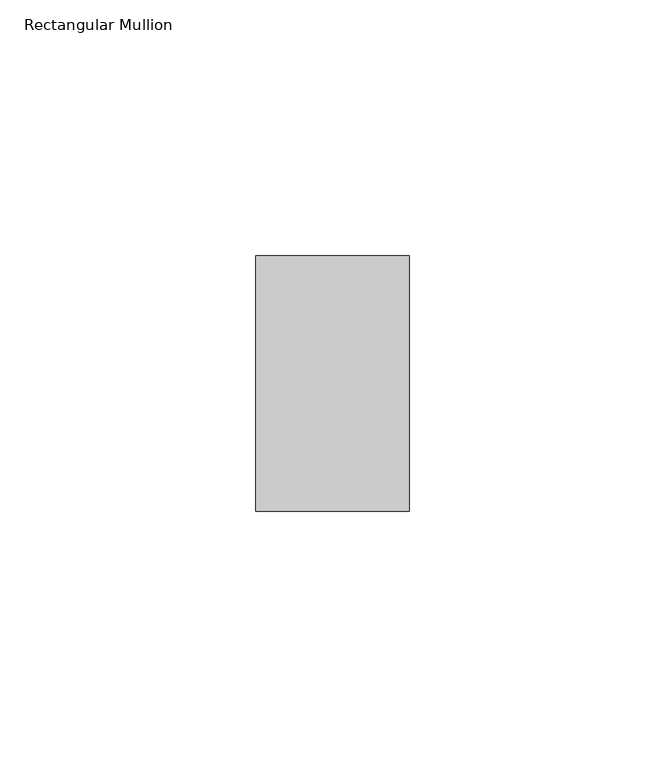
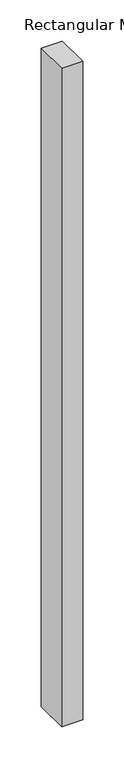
"""IFC4 building model written with IfcOpenShell, lengths in millimetres: member geometry, Rectangular Mullion : ARQ_TV_MULL_50x30mm."""

from ifc_helpers import new_model, si_unit, frame, origin, place, context, project, spatial, polyline, outline, extrude, source, transform, mapped, element, save


def rectangular_mullion_de2a72ae(model_context):
    return source(origin(), model_context, "Body", "SweptSolid", [
        extrude(outline(polyline([(15.0, 25.0), (15.0, -25.0), (-15.0, -25.0), (-15.0, 25.0), (15.0, 25.0)])), frame((0.0, 0.0, -980.1431269), z_axis=(0.0, 0.0, 1.0), x_axis=(1.0, 0.0, 0.0)), (0.0, 0.0, 1.0), 980.1431269),
    ])


if __name__ == "__main__":
    model = new_model("IFC4")
    model_context = context("Model", 3, world=origin())
    ifc_project = project(units=[si_unit("LENGTHUNIT", "METRE", prefix="MILLI")], contexts=[model_context])
    site = spatial("IfcSite", under=ifc_project)
    building = spatial("IfcBuilding", under=site)
    placement = place(None, origin())
    rectangular_mullion_shape = rectangular_mullion_de2a72ae(model_context)
    element("IfcMember", 1, ObjectType="Rectangular Mullion : ARQ_TV_MULL_50x30mm", at=placement, inside=building, context=model_context, shape_type="MappedRepresentation", body=[
        mapped(rectangular_mullion_shape, transform((0.0, 0.0, 0.0), x_axis=(1.0, 0.0, 0.0), y_axis=(0.0, 1.0, 0.0), z_axis=(0.0, 0.0, 1.0))),
    ])
    save(model, "model.ifc")
